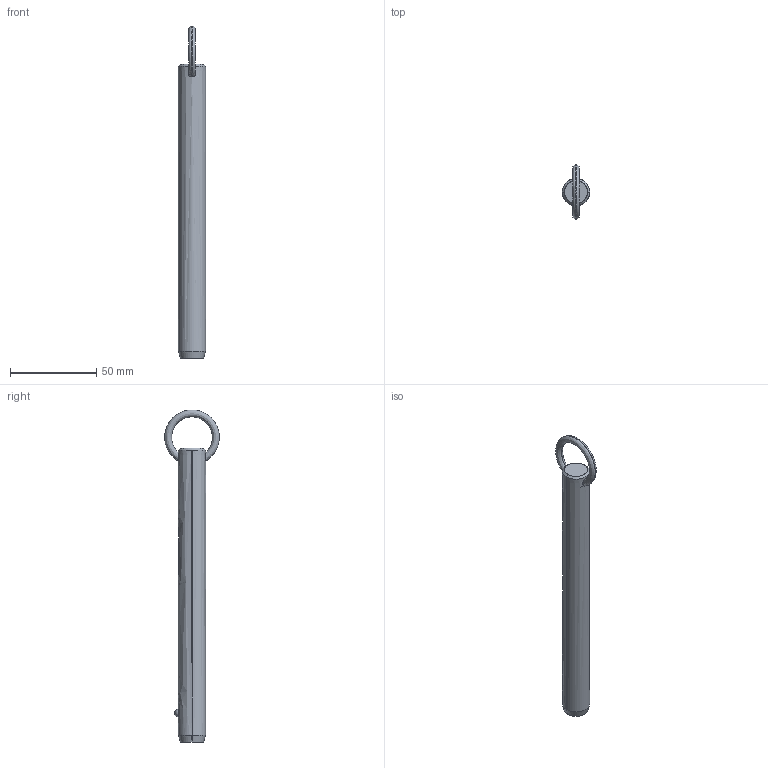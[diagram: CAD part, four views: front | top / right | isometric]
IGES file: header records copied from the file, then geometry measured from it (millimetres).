
Start section: SolidWorks IGES file using analytic representation for surfaces
Global section: file name: C:\Users\liam_\OneDrive\Documents\WORK\Work for WixRoyd\Job Files\J-00019 - Matt Davis CAD Checking\04. CAD Drawings\automotion20190605\P1250.2_v2\P1250.2_v2_20190729_IGES\P1250.062-560.igs; native system: SolidWorks 2017; preprocessor: SolidWorks 2017; author: liam_; date: 190729.234038; units: millimetre
Bounding box: 15.8 x 31.67 x 192.9 mm (x, y, z)
Surface area: 9646.9 mm2 (no closed solid volume)
Topology: 0 solids, 0 shells, 12 faces, 292 edges, 290 vertices
Faces by surface type: revolution 8, bspline 4
